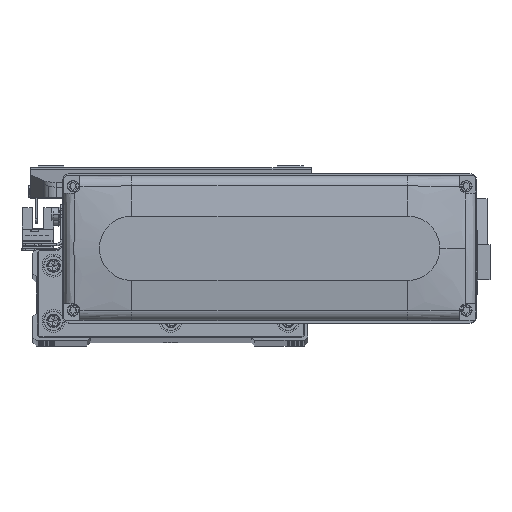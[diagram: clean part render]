
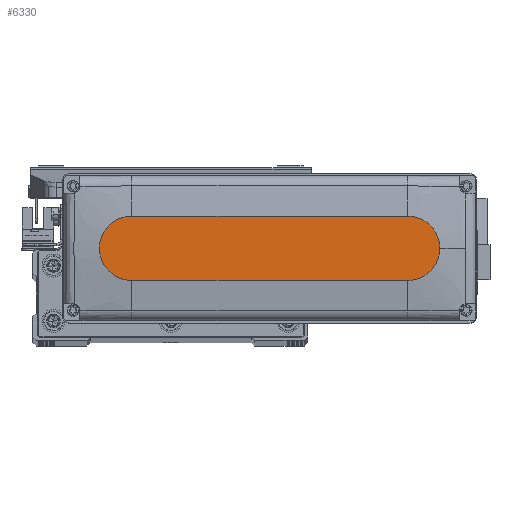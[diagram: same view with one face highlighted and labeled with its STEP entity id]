
A CAD part, top view. The second image highlights one B-rep face of the part: STEP entity #6330.
In plain terms, the highlighted planar face has unit normal (0, 0, 1).
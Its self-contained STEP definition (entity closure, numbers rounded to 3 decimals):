
#9 = VERTEX_POINT ( 'NONE', #29792 ) ;
#105 = EDGE_CURVE ( 'NONE', #40673, #17163, #26868, .T. ) ;
#605 = DIRECTION ( 'NONE',  ( 0., 0., 1. ) ) ;
#919 = ORIENTED_EDGE ( 'NONE', *, *, #50820, .T. ) ;
#1277 = DIRECTION ( 'NONE',  ( 1., 0., 0. ) ) ;
#4074 = VERTEX_POINT ( 'NONE', #35645 ) ;
#4536 = DIRECTION ( 'NONE',  ( 0., 0., 1. ) ) ;
#5533 = VERTEX_POINT ( 'NONE', #45657 ) ;
#6330 = ADVANCED_FACE ( 'NONE', ( #32168 ), #18596, .T. ) ;
#7547 = CARTESIAN_POINT ( 'NONE',  ( 60., 14., 28.5 ) ) ;
#9107 = AXIS2_PLACEMENT_3D ( 'NONE', #48180, #4536, #27058 ) ;
#9252 = CARTESIAN_POINT ( 'NONE',  ( -60., 14., 28.5 ) ) ;
#9589 = EDGE_LOOP ( 'NONE', ( #35118, #39894, #57000, #55112, #919 ) ) ;
#9892 = CARTESIAN_POINT ( 'NONE',  ( -60., 0., 28.5 ) ) ;
#10376 = CARTESIAN_POINT ( 'NONE',  ( -60., -14., 28.5 ) ) ;
#10658 = DIRECTION ( 'NONE',  ( 1., 0., 0. ) ) ;
#14693 = LINE ( 'NONE', #10376, #19325 ) ;
#15017 = CIRCLE ( 'NONE', #43667, 14. ) ;
#17163 = VERTEX_POINT ( 'NONE', #36125 ) ;
#18596 = PLANE ( 'NONE',  #56552 ) ;
#19154 = DIRECTION ( 'NONE',  ( 0., 0., 1. ) ) ;
#19325 = VECTOR ( 'NONE', #10658, 1000. ) ;
#21116 = EDGE_CURVE ( 'NONE', #4074, #9, #14693, .T. ) ;
#23211 = CARTESIAN_POINT ( 'NONE',  ( 0., 0., 28.5 ) ) ;
#23787 = AXIS2_PLACEMENT_3D ( 'NONE', #36126, #605, #43953 ) ;
#26868 = LINE ( 'NONE', #9252, #54329 ) ;
#27058 = DIRECTION ( 'NONE',  ( 1., 0., 0. ) ) ;
#28070 = DIRECTION ( 'NONE',  ( 1., 0., 0. ) ) ;
#29792 = CARTESIAN_POINT ( 'NONE',  ( 60., -14., 28.5 ) ) ;
#32168 = FACE_OUTER_BOUND ( 'NONE', #9589, .T. ) ;
#35118 = ORIENTED_EDGE ( 'NONE', *, *, #105, .T. ) ;
#35645 = CARTESIAN_POINT ( 'NONE',  ( -60., -14., 28.5 ) ) ;
#36125 = CARTESIAN_POINT ( 'NONE',  ( -60., 14., 28.5 ) ) ;
#36126 = CARTESIAN_POINT ( 'NONE',  ( 60., 0., 28.5 ) ) ;
#39894 = ORIENTED_EDGE ( 'NONE', *, *, #46021, .T. ) ;
#40494 = DIRECTION ( 'NONE',  ( 0., 0., 1. ) ) ;
#40673 = VERTEX_POINT ( 'NONE', #7547 ) ;
#43667 = AXIS2_PLACEMENT_3D ( 'NONE', #9892, #40494, #28070 ) ;
#43953 = DIRECTION ( 'NONE',  ( 1., 0., 0. ) ) ;
#45048 = DIRECTION ( 'NONE',  ( -1., 0., 0. ) ) ;
#45657 = CARTESIAN_POINT ( 'NONE',  ( 74., 0., 28.5 ) ) ;
#46021 = EDGE_CURVE ( 'NONE', #17163, #4074, #15017, .T. ) ;
#46904 = CIRCLE ( 'NONE', #9107, 14. ) ;
#48180 = CARTESIAN_POINT ( 'NONE',  ( 60., 0., 28.5 ) ) ;
#48712 = CIRCLE ( 'NONE', #23787, 14. ) ;
#50820 = EDGE_CURVE ( 'NONE', #5533, #40673, #48712, .T. ) ;
#54329 = VECTOR ( 'NONE', #45048, 1000. ) ;
#55112 = ORIENTED_EDGE ( 'NONE', *, *, #55225, .T. ) ;
#55225 = EDGE_CURVE ( 'NONE', #9, #5533, #46904, .T. ) ;
#56552 = AXIS2_PLACEMENT_3D ( 'NONE', #23211, #19154, #1277 ) ;
#57000 = ORIENTED_EDGE ( 'NONE', *, *, #21116, .T. ) ;
